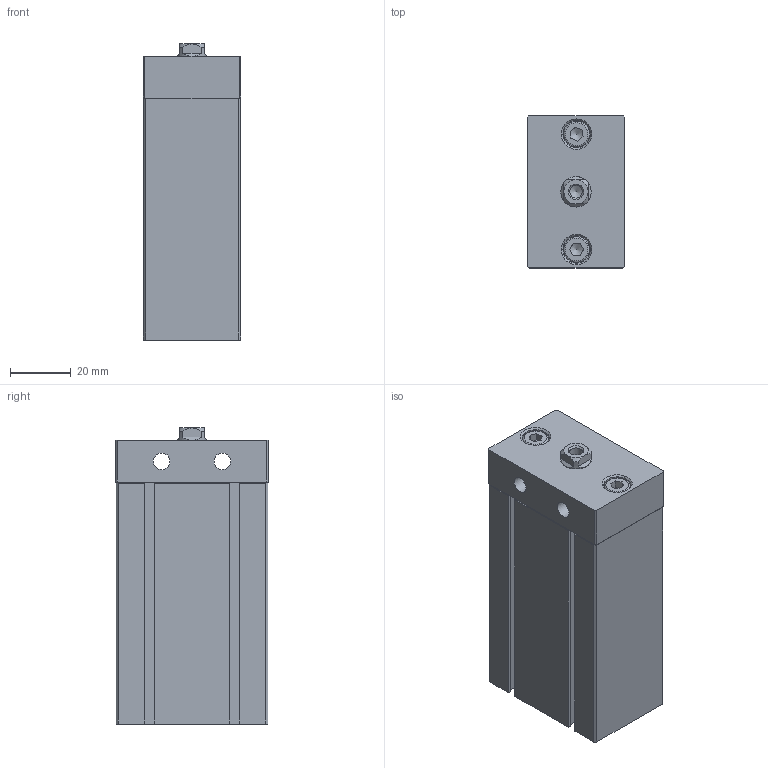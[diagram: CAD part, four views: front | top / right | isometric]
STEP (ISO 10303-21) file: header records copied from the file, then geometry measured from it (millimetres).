
FILE_DESCRIPTION((''),'2;1');
FILE_NAME('I:\3D電子目錄\氣缸\ND\ND\ND25\ND25x50.stp','2007-07-24T19:09:10',('Administrator'),(''),'Autodesk Inventor 11','Autodesk Inventor 11','');
FILE_SCHEMA(('AUTOMOTIVE_DESIGN { 1 0 10303 214 1 1 1 1 }'));
Length unit declared in the file: millimetre
Products named in the file (4): ND25; ISO 4762 M5 x 12; R 形環 28
Assembly tree (4 placements, depth 2):
  ND25
    ND25
    ISO 4762 M5 x 12  x2
    R 形環 28
Bounding box: 32 x 50.1 x 97.5 mm (x, y, z)
Volume: 138197.4 mm3; surface area: 27610.7 mm2
Topology: 5 solids, 5 shells, 167 faces, 389 edges, 247 vertices
Faces by surface type: plane 105, cylinder 25, cone 18, bspline 16, torus 3
Full cylindrical faces by diameter (mm): 1.5 x2, 1.9 x2, 5 x2, 5.5 x2, 8.5 x2, 9 x2, 17 x1, 28 x1, 29.4 x1
Entity records: 4347 total; most frequent: CARTESIAN_POINT 939, DIRECTION 678, ORIENTED_EDGE 626, EDGE_CURVE 313, AXIS2_PLACEMENT_3D 234, VERTEX_POINT 221, EDGE_LOOP 214, VECTOR 210
